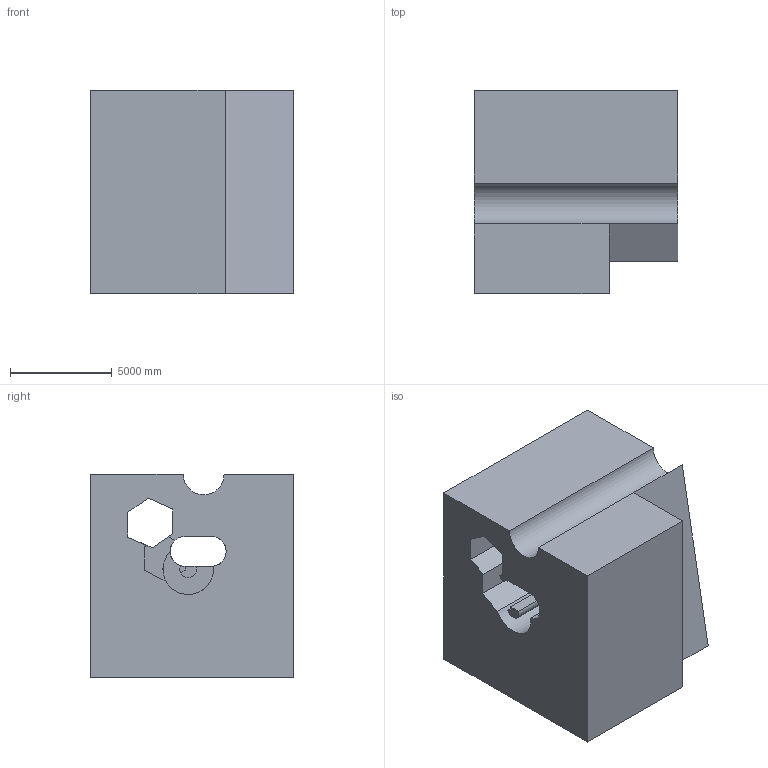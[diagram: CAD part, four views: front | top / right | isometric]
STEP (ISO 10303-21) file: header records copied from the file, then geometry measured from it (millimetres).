
FILE_DESCRIPTION (( 'STEP AP203' ), '1' );
FILE_NAME ('316.STEP', '2022-09-07T12:49:13', ( 'user' ), ( '' ), 'SwSTEP 2.0', 'SolidWorks 2021', '' );
FILE_SCHEMA (( 'CONFIG_CONTROL_DESIGN' ));
Length unit declared in the file: centimetre
Products named in the file (1): 316
Bounding box: 10000 x 10000 x 10000 mm (x, y, z)
Volume: 794533528370.3 mm3; surface area: 755461797.9 mm2
Topology: 1 solids, 1 shells, 32 faces, 91 edges, 60 vertices
Faces by surface type: plane 27, cylinder 5
Entity records: 1120 total; most frequent: CARTESIAN_POINT 184, ORIENTED_EDGE 182, DIRECTION 173, EDGE_CURVE 91, VECTOR 75, LINE 75, VERTEX_POINT 60, AXIS2_PLACEMENT_3D 49
